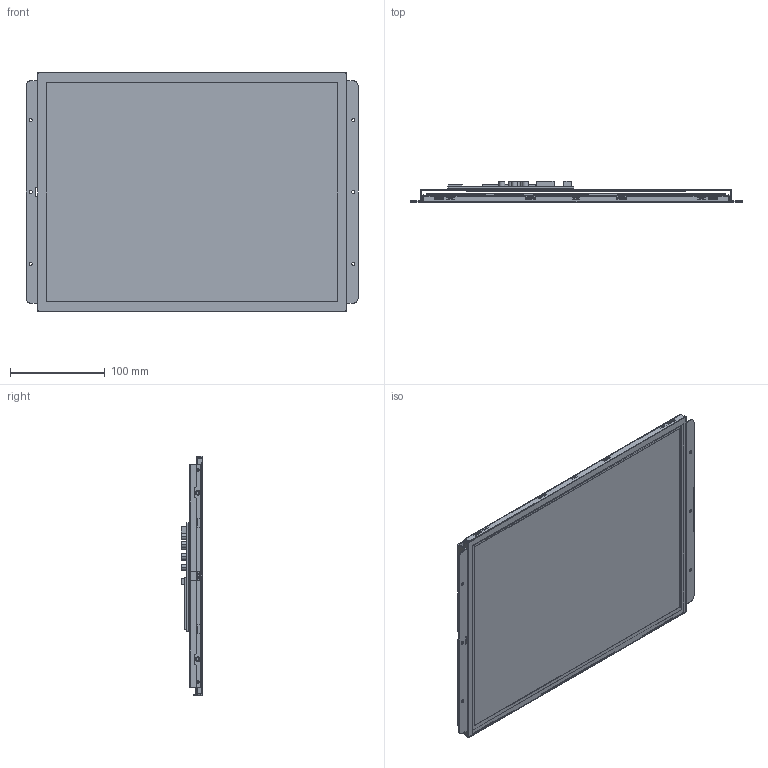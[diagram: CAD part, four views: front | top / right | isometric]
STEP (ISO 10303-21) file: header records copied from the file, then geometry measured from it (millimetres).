
FILE_DESCRIPTION((''),'2;1');
FILE_NAME('3D-DMG10768K150-03WTR','2022-02-23T',('Administrator'),(''),'PRO/ENGINEER BY PARAMETRIC TECHNOLOGY CORPORATION, 2011310','PRO/ENGINEER BY PARAMETRIC TECHNOLOGY CORPORATION, 2011310','');
FILE_SCHEMA(('CONFIG_CONTROL_DESIGN','SHAPE_APPEARANCE_LAYERS_GROUPS'));
Length unit declared in the file: millimetre
Products named in the file (1): 3D-DMG10768K150-03WTR
Bounding box: 351 x 22.9 x 253.5 mm (x, y, z)
Volume: 312088.5 mm3; surface area: 613774.7 mm2
Topology: 3 solids, 5 shells, 1796 faces, 5014 edges, 3224 vertices
Faces by surface type: plane 1307, cylinder 406, torus 47, sphere 20, cone 12, bspline 4
Entity records: 59180 total; most frequent: CARTESIAN_POINT 10728, ORIENTED_EDGE 9998, DIRECTION 9311, EDGE_CURVE 4999, VECTOR 4059, LINE 4059, VERTEX_POINT 3224, AXIS2_PLACEMENT_3D 2626
